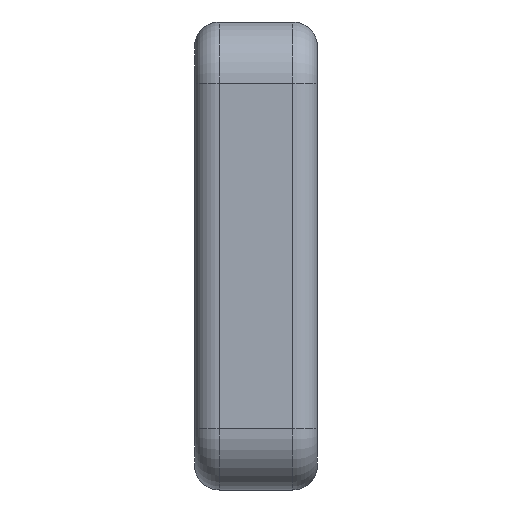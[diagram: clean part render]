
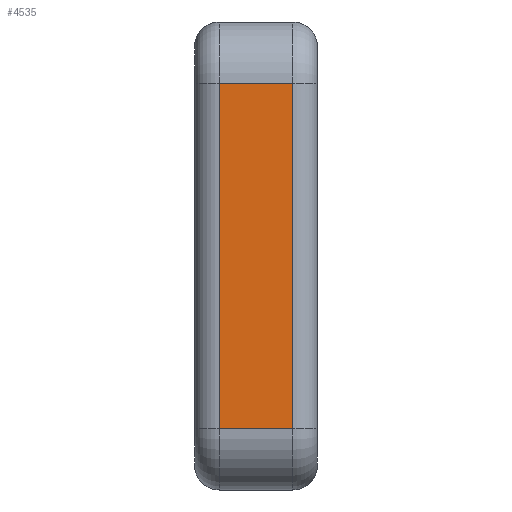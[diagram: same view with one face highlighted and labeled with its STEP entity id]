
A CAD part, left-side view. The second image highlights one B-rep face of the part: STEP entity #4535.
In plain terms, the highlighted planar face has unit normal (-1, 0, 0).
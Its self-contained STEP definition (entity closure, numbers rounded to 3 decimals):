
#61 = DIRECTION ( 'NONE',  ( 0., 0., -1. ) ) ;
#67 = DIRECTION ( 'NONE',  ( 0., 0., -1. ) ) ;
#157 = VECTOR ( 'NONE', #2138, 1000. ) ;
#331 = CARTESIAN_POINT ( 'NONE',  ( -225., 4., 28.1 ) ) ;
#467 = CARTESIAN_POINT ( 'NONE',  ( -225., 4., 28.1 ) ) ;
#468 = EDGE_CURVE ( 'NONE', #2860, #3171, #2653, .T. ) ;
#474 = PLANE ( 'NONE',  #5081 ) ;
#503 = LINE ( 'NONE', #331, #5294 ) ;
#617 = ORIENTED_EDGE ( 'NONE', *, *, #3945, .T. ) ;
#1057 = VERTEX_POINT ( 'NONE', #3363 ) ;
#1125 = VERTEX_POINT ( 'NONE', #467 ) ;
#1178 = ORIENTED_EDGE ( 'NONE', *, *, #468, .T. ) ;
#1594 = VECTOR ( 'NONE', #61, 1000. ) ;
#1631 = ORIENTED_EDGE ( 'NONE', *, *, #4873, .T. ) ;
#1770 = CARTESIAN_POINT ( 'NONE',  ( -225., 16., 38.1 ) ) ;
#2138 = DIRECTION ( 'NONE',  ( 0., 1., 0. ) ) ;
#2274 = EDGE_CURVE ( 'NONE', #1057, #2860, #4901, .T. ) ;
#2653 = LINE ( 'NONE', #4880, #3489 ) ;
#2860 = VERTEX_POINT ( 'NONE', #4967 ) ;
#2864 = FACE_OUTER_BOUND ( 'NONE', #4324, .T. ) ;
#3171 = VERTEX_POINT ( 'NONE', #3221 ) ;
#3190 = LINE ( 'NONE', #3344, #157 ) ;
#3221 = CARTESIAN_POINT ( 'NONE',  ( -225., 4., -28.1 ) ) ;
#3344 = CARTESIAN_POINT ( 'NONE',  ( -225., 20., 28.1 ) ) ;
#3347 = DIRECTION ( 'NONE',  ( 1., 0., 0. ) ) ;
#3363 = CARTESIAN_POINT ( 'NONE',  ( -225., 16., 28.1 ) ) ;
#3367 = CARTESIAN_POINT ( 'NONE',  ( -225., 20., 38.1 ) ) ;
#3489 = VECTOR ( 'NONE', #5312, 1000. ) ;
#3945 = EDGE_CURVE ( 'NONE', #3171, #1125, #503, .T. ) ;
#3989 = DIRECTION ( 'NONE',  ( 0., 0., 1. ) ) ;
#4287 = ORIENTED_EDGE ( 'NONE', *, *, #2274, .T. ) ;
#4324 = EDGE_LOOP ( 'NONE', ( #1178, #617, #1631, #4287 ) ) ;
#4535 = ADVANCED_FACE ( 'NONE', ( #2864 ), #474, .F. ) ;
#4873 = EDGE_CURVE ( 'NONE', #1125, #1057, #3190, .T. ) ;
#4880 = CARTESIAN_POINT ( 'NONE',  ( -225., 20., -28.1 ) ) ;
#4901 = LINE ( 'NONE', #1770, #1594 ) ;
#4967 = CARTESIAN_POINT ( 'NONE',  ( -225., 16., -28.1 ) ) ;
#5081 = AXIS2_PLACEMENT_3D ( 'NONE', #3367, #3347, #67 ) ;
#5294 = VECTOR ( 'NONE', #3989, 1000. ) ;
#5312 = DIRECTION ( 'NONE',  ( 0., -1., 0. ) ) ;
